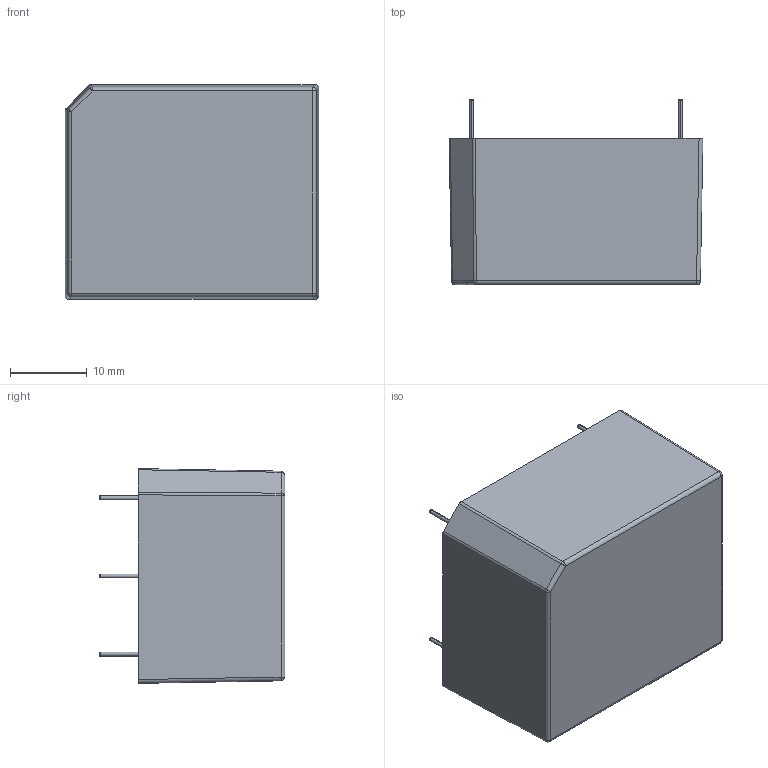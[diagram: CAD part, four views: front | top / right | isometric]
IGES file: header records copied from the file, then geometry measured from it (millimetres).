
Start section: SolidWorks IGES file using analytic representation for surfaces
Global section: file name: C:\Users\ksmith.XPNA\Desktop\VCE\VCE05.IGS; native system: SolidWorks 2016; preprocessor: SolidWorks 2016; author: ksmith; date: 170224.154139; units: inch
Bounding box: 33.02 x 24.15 x 27.94 mm (x, y, z)
Surface area: 13398.5 mm2 (no closed solid volume)
Topology: 0 solids, 0 shells, 868 faces, 7055 edges, 7053 vertices
Faces by surface type: bspline 533, revolution 335
